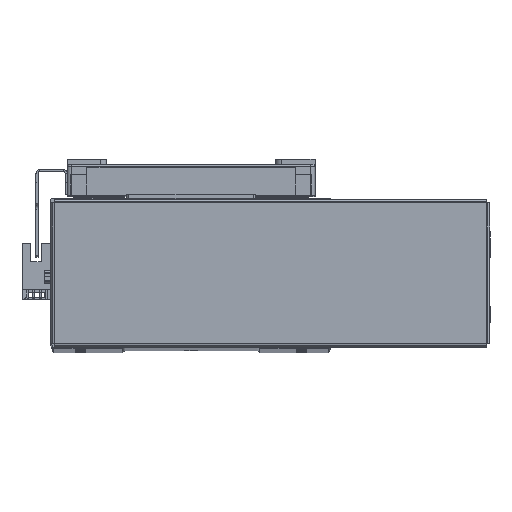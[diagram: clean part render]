
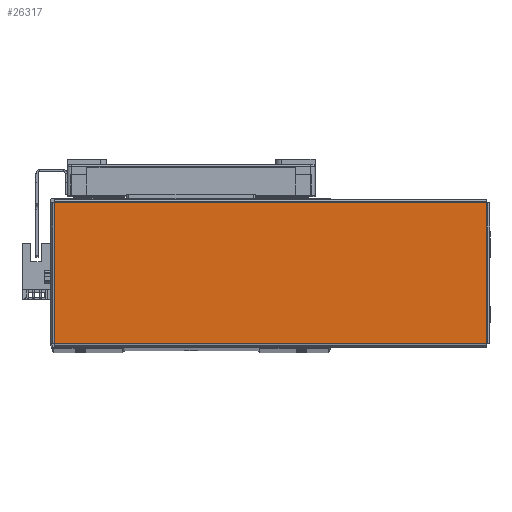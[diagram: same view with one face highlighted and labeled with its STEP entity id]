
A CAD part, top view. The second image highlights one B-rep face of the part: STEP entity #26317.
In plain terms, the highlighted planar face has unit normal (0, 0, 1) as drawn and (0, -1, 0) by its records, which use the part's own axes.
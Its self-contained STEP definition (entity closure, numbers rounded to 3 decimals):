
#1954 = FACE_OUTER_BOUND ( 'NONE', #33664, .T. ) ;
#5908 = VERTEX_POINT ( 'NONE', #17097 ) ;
#5914 = VERTEX_POINT ( 'NONE', #17104 ) ;
#5920 = VERTEX_POINT ( 'NONE', #16996 ) ;
#5973 = VERTEX_POINT ( 'NONE', #17252 ) ;
#10278 = DIRECTION ( 'NONE',  ( 0., 1., 0. ) ) ;
#10289 = PLANE ( 'NONE',  #10733 ) ;
#10294 = DIRECTION ( 'NONE',  ( 0., 0., 1. ) ) ;
#10310 = CARTESIAN_POINT ( 'NONE',  ( 0., -1., 0. ) ) ;
#10733 = AXIS2_PLACEMENT_3D ( 'NONE', #10310, #10278, #10294 ) ;
#16996 = CARTESIAN_POINT ( 'NONE',  ( 103.763, -1., 33.763 ) ) ;
#17097 = CARTESIAN_POINT ( 'NONE',  ( -103.763, -1., -33.763 ) ) ;
#17104 = CARTESIAN_POINT ( 'NONE',  ( -103.763, -1., 33.763 ) ) ;
#17252 = CARTESIAN_POINT ( 'NONE',  ( 103.763, -1., -33.763 ) ) ;
#26317 = ADVANCED_FACE ( 'NONE', ( #1954 ), #10289, .F. ) ;
#28697 = EDGE_CURVE ( 'NONE', #5920, #5914, #48650, .T. ) ;
#28764 = EDGE_CURVE ( 'NONE', #5914, #5908, #48635, .T. ) ;
#28787 = EDGE_CURVE ( 'NONE', #5908, #5973, #48753, .T. ) ;
#28860 = EDGE_CURVE ( 'NONE', #5973, #5920, #48764, .T. ) ;
#32771 = ORIENTED_EDGE ( 'NONE', *, *, #28787, .T. ) ;
#32784 = ORIENTED_EDGE ( 'NONE', *, *, #28860, .T. ) ;
#32785 = ORIENTED_EDGE ( 'NONE', *, *, #28764, .T. ) ;
#32789 = ORIENTED_EDGE ( 'NONE', *, *, #28697, .T. ) ;
#33664 = EDGE_LOOP ( 'NONE', ( #32789, #32785, #32771, #32784 ) ) ;
#48095 = DIRECTION ( 'NONE',  ( -1., 0., 0. ) ) ;
#48110 = CARTESIAN_POINT ( 'NONE',  ( 103.793, -1., 33.763 ) ) ;
#48635 = LINE ( 'NONE', #49375, #48644 ) ;
#48644 = VECTOR ( 'NONE', #49387, 1000. ) ;
#48650 = LINE ( 'NONE', #48110, #48690 ) ;
#48690 = VECTOR ( 'NONE', #48095, 1000. ) ;
#48753 = LINE ( 'NONE', #49414, #48754 ) ;
#48754 = VECTOR ( 'NONE', #49407, 1000. ) ;
#48764 = LINE ( 'NONE', #49516, #48766 ) ;
#48766 = VECTOR ( 'NONE', #49528, 1000. ) ;
#49375 = CARTESIAN_POINT ( 'NONE',  ( -103.763, -1., 33.793 ) ) ;
#49387 = DIRECTION ( 'NONE',  ( 0., 0., -1. ) ) ;
#49407 = DIRECTION ( 'NONE',  ( 1., 0., 0. ) ) ;
#49414 = CARTESIAN_POINT ( 'NONE',  ( -103.793, -1., -33.763 ) ) ;
#49516 = CARTESIAN_POINT ( 'NONE',  ( 103.763, -1., -33.793 ) ) ;
#49528 = DIRECTION ( 'NONE',  ( 0., 0., 1. ) ) ;
